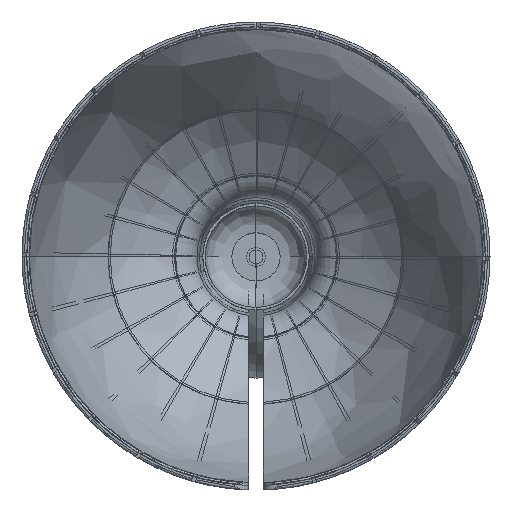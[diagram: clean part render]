
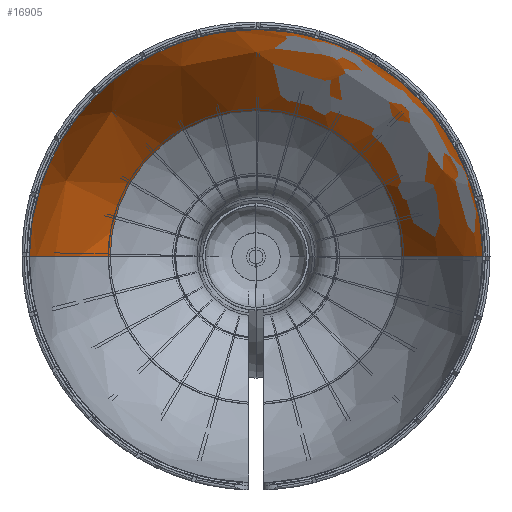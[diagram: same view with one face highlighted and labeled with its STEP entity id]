
A CAD part, top view. The second image highlights one B-rep face of the part: STEP entity #16905.
In plain terms, the highlighted free-form (B-spline) face has degree [2, 2] with [3, 5] control points.
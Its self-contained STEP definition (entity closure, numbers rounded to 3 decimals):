
#110=(
BOUNDED_CURVE()
B_SPLINE_CURVE(2,(#25188,#25189,#25190),.UNSPECIFIED.,.F.,.F.)
B_SPLINE_CURVE_WITH_KNOTS((3,3),(-0.633,-0.025),
 .UNSPECIFIED.)
CURVE()
GEOMETRIC_REPRESENTATION_ITEM()
RATIONAL_B_SPLINE_CURVE((1.,0.954,1.))
REPRESENTATION_ITEM('')
);
#111=(
BOUNDED_CURVE()
B_SPLINE_CURVE(2,(#25249,#25250,#25251),.UNSPECIFIED.,.F.,.F.)
B_SPLINE_CURVE_WITH_KNOTS((3,3),(0.025,0.633),
 .UNSPECIFIED.)
CURVE()
GEOMETRIC_REPRESENTATION_ITEM()
RATIONAL_B_SPLINE_CURVE((1.,0.954,1.))
REPRESENTATION_ITEM('')
);
#544=B_SPLINE_CURVE_WITH_KNOTS('',3,(#25314,#25315,#25316,#25317,#25318,
#25319,#25320,#25321,#25322,#25323,#25324,#25325),.UNSPECIFIED.,.F.,.F.,
(4,1,1,1,1,1,1,1,1,4),(0.,0.111,0.222,0.333,
0.444,0.556,0.667,0.778,
0.889,1.),.UNSPECIFIED.);
#1237=(
BOUNDED_SURFACE()
B_SPLINE_SURFACE(2,2,((#25299,#25300,#25301,#25302,#25303),(#25304,#25305,
#25306,#25307,#25308),(#25309,#25310,#25311,#25312,#25313)),
 .UNSPECIFIED.,.F.,.F.,.F.)
B_SPLINE_SURFACE_WITH_KNOTS((3,3),(3,2,3),(-0.633,-0.025),
(0.,1.571,3.142),.UNSPECIFIED.)
GEOMETRIC_REPRESENTATION_ITEM()
RATIONAL_B_SPLINE_SURFACE(((1.,0.707,1.,0.707,1.),
(0.954,0.675,0.954,0.675,
0.954),(1.,0.707,1.,0.707,1.)))
REPRESENTATION_ITEM('')
SURFACE()
);
#1897=FACE_OUTER_BOUND('',#2807,.T.);
#2807=EDGE_LOOP('',(#12037,#12038,#12039,#12040));
#3701=CIRCLE('',#17900,61.701);
#6765=VERTEX_POINT('',#25186);
#6766=VERTEX_POINT('',#25187);
#6769=VERTEX_POINT('',#25247);
#6770=VERTEX_POINT('',#25248);
#8901=EDGE_CURVE('',#6765,#6766,#110,.T.);
#8905=EDGE_CURVE('',#6769,#6770,#111,.T.);
#8909=EDGE_CURVE('',#6769,#6766,#544,.T.);
#8910=EDGE_CURVE('',#6765,#6770,#3701,.T.);
#12037=ORIENTED_EDGE('',*,*,#8909,.F.);
#12038=ORIENTED_EDGE('',*,*,#8905,.T.);
#12039=ORIENTED_EDGE('',*,*,#8910,.F.);
#12040=ORIENTED_EDGE('',*,*,#8901,.T.);
#16905=ADVANCED_FACE('',(#1897),#1237,.T.);
#17900=AXIS2_PLACEMENT_3D('',#25326,#20082,#20083);
#20082=DIRECTION('center_axis',(0.,0.,
1.));
#20083=DIRECTION('ref_axis',(1.,0.,0.));
#25186=CARTESIAN_POINT('',(61.701,0.,89.087));
#25187=CARTESIAN_POINT('',(95.825,0.,189.144));
#25188=CARTESIAN_POINT('Ctrl Pts',(61.701,0.,
89.087));
#25189=CARTESIAN_POINT('Ctrl Pts',(94.463,0.,
133.761));
#25190=CARTESIAN_POINT('Ctrl Pts',(95.825,0.,
189.144));
#25247=CARTESIAN_POINT('',(-95.825,0.,189.144));
#25248=CARTESIAN_POINT('',(-61.701,0.,89.087));
#25249=CARTESIAN_POINT('Ctrl Pts',(-95.825,0.,
189.144));
#25250=CARTESIAN_POINT('Ctrl Pts',(-94.463,0.,
133.761));
#25251=CARTESIAN_POINT('Ctrl Pts',(-61.701,0.,
89.087));
#25299=CARTESIAN_POINT('Ctrl Pts',(61.701,0.,
89.087));
#25300=CARTESIAN_POINT('Ctrl Pts',(61.701,61.701,89.087));
#25301=CARTESIAN_POINT('Ctrl Pts',(0.,61.701,
89.087));
#25302=CARTESIAN_POINT('Ctrl Pts',(-61.701,61.701,89.087));
#25303=CARTESIAN_POINT('Ctrl Pts',(-61.701,0.,
89.087));
#25304=CARTESIAN_POINT('Ctrl Pts',(94.464,0.,
133.762));
#25305=CARTESIAN_POINT('Ctrl Pts',(94.464,94.464,133.762));
#25306=CARTESIAN_POINT('Ctrl Pts',(0.,94.464,
133.762));
#25307=CARTESIAN_POINT('Ctrl Pts',(-94.464,94.464,133.762));
#25308=CARTESIAN_POINT('Ctrl Pts',(-94.464,0.,
133.762));
#25309=CARTESIAN_POINT('Ctrl Pts',(95.825,0.,
189.146));
#25310=CARTESIAN_POINT('Ctrl Pts',(95.825,95.825,189.146));
#25311=CARTESIAN_POINT('Ctrl Pts',(0.,95.825,
189.146));
#25312=CARTESIAN_POINT('Ctrl Pts',(-95.825,95.825,189.146));
#25313=CARTESIAN_POINT('Ctrl Pts',(-95.825,0.,
189.146));
#25314=CARTESIAN_POINT('Ctrl Pts',(-95.825,0.,
189.144));
#25315=CARTESIAN_POINT('Ctrl Pts',(-95.905,11.178,189.144));
#25316=CARTESIAN_POINT('Ctrl Pts',(-91.856,33.433,189.144));
#25317=CARTESIAN_POINT('Ctrl Pts',(-74.922,62.863,189.144));
#25318=CARTESIAN_POINT('Ctrl Pts',(-48.893,84.689,189.144));
#25319=CARTESIAN_POINT('Ctrl Pts',(-16.982,96.306,189.144));
#25320=CARTESIAN_POINT('Ctrl Pts',(16.982,96.306,189.144));
#25321=CARTESIAN_POINT('Ctrl Pts',(48.893,84.689,189.144));
#25322=CARTESIAN_POINT('Ctrl Pts',(74.922,62.863,189.144));
#25323=CARTESIAN_POINT('Ctrl Pts',(91.856,33.433,189.144));
#25324=CARTESIAN_POINT('Ctrl Pts',(95.905,11.178,189.144));
#25325=CARTESIAN_POINT('Ctrl Pts',(95.825,0.,
189.144));
#25326=CARTESIAN_POINT('Origin',(0.,0.,
89.087));
